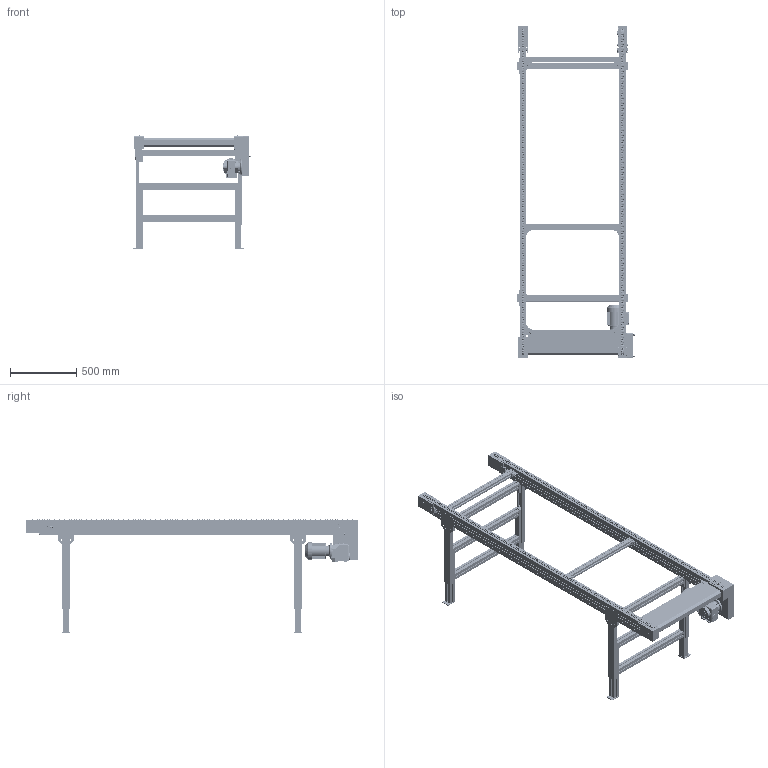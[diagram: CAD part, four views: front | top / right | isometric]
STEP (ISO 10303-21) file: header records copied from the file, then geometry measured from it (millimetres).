
FILE_DESCRIPTION(/* description */ (''),/* implementation_level */ '2;1');
FILE_NAME(/* name */ 'C:\Marketing\01_Versamove-SPU_STEP-Dateien-Homepage\Versamove plus\STEP-Dateien\Kettenförderer_KTF-P-2010_B800_L2500.stp',/* time_stamp */ '2016-12-22T08:20:12+01:00',/* author */ ('herbert.engels'),/* organization */ (''),/* preprocessor_version */ 'ST-DEVELOPER v15.6',/* originating_system */ 'Autodesk Inventor 2015',/* authorisation */ '');
FILE_SCHEMA (('CONFIG_CONTROL_DESIGN'));
Products named in the file (1): Kettenförderer_KTF-P-2010_B800_L2500
Bounding box: 890.6 x 2503 x 852.55 mm (x, y, z)
Volume: 47126301.9 mm3; surface area: 8239336.3 mm2
Topology: 13 solids, 13 shells, 9783 faces, 25694 edges, 16692 vertices
Faces by surface type: plane 5155, cylinder 4214, torus 214, cone 169, bspline 23, sphere 8
Full cylindrical faces by diameter (mm): 2 x2, 4.45 x758, 5.459 x4, 6 x21, 6.6 x4, 7 x8, 8 x39, 8.51 x384, 8.8 x19, 9.5 x2, 11.8 x760, 12 x6, 13 x12, 14 x3, 16.2 x4, 19 x3, 20 x6, 24 x1, 25 x1, 25.5 x4, 35 x12, 37 x1, 38 x1, 40 x4, 43 x1, 52 x1, 56 x2, 62 x2, 73 x8, 80 x3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
Entity records: 301547 total; most frequent: CARTESIAN_POINT 53971, DIRECTION 51379, ORIENTED_EDGE 46086, EDGE_CURVE 22664, AXIS2_PLACEMENT_3D 20060, VERTEX_POINT 15841, EDGE_LOOP 14252, LINE 11259
